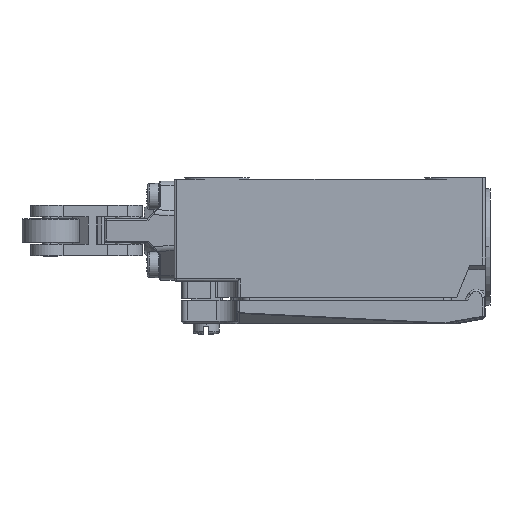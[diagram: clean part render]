
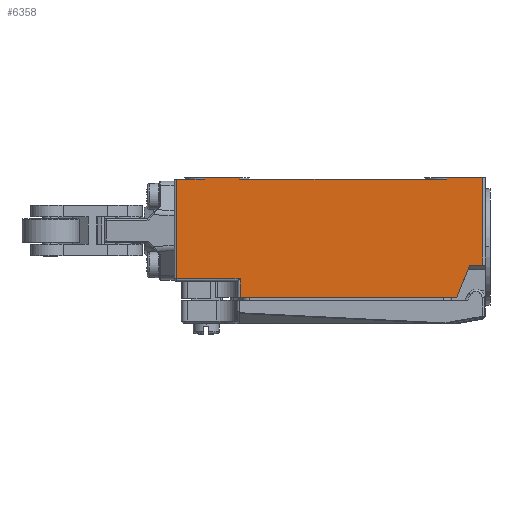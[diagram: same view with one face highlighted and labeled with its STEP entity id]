
A CAD part, left-side view. The second image highlights one B-rep face of the part: STEP entity #6358.
In plain terms, the highlighted planar face has unit normal (-1, 0, 0).
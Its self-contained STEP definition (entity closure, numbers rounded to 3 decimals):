
#1513=B_SPLINE_CURVE_WITH_KNOTS('',3,(#40742,#40743,#40744,#40745),
 .UNSPECIFIED.,.F.,.F.,(4,4),(0.,1.),.UNSPECIFIED.);
#1514=B_SPLINE_CURVE_WITH_KNOTS('',3,(#40862,#40863,#40864,#40865),
 .UNSPECIFIED.,.F.,.F.,(4,4),(0.,1.),.UNSPECIFIED.);
#1515=B_SPLINE_CURVE_WITH_KNOTS('',3,(#40866,#40867,#40868,#40869),
 .UNSPECIFIED.,.F.,.F.,(4,4),(0.,1.),.UNSPECIFIED.);
#1516=B_SPLINE_CURVE_WITH_KNOTS('',3,(#40871,#40872,#40873,#40874),
 .UNSPECIFIED.,.F.,.F.,(4,4),(0.,1.),.UNSPECIFIED.);
#1517=B_SPLINE_CURVE_WITH_KNOTS('',3,(#40876,#40877,#40878,#40879),
 .UNSPECIFIED.,.F.,.F.,(4,4),(0.,1.),.UNSPECIFIED.);
#1518=B_SPLINE_CURVE_WITH_KNOTS('',3,(#40887,#40888,#40889,#40890),
 .UNSPECIFIED.,.F.,.F.,(4,4),(0.,1.),.UNSPECIFIED.);
#1519=B_SPLINE_CURVE_WITH_KNOTS('',3,(#40891,#40892,#40893,#40894),
 .UNSPECIFIED.,.F.,.F.,(4,4),(0.,1.),.UNSPECIFIED.);
#1520=B_SPLINE_CURVE_WITH_KNOTS('',3,(#40895,#40896,#40897,#40898),
 .UNSPECIFIED.,.F.,.F.,(4,4),(0.,1.),.UNSPECIFIED.);
#2356=LINE('',#40726,#4433);
#2393=LINE('',#40845,#4470);
#2398=LINE('',#40859,#4475);
#2399=LINE('',#40881,#4476);
#2400=LINE('',#40883,#4477);
#2401=LINE('',#40885,#4478);
#4433=VECTOR('',#29361,1.);
#4470=VECTOR('',#29472,1.);
#4475=VECTOR('',#29483,1.);
#4476=VECTOR('',#29484,1.);
#4477=VECTOR('',#29485,1.);
#4478=VECTOR('',#29486,1.);
#6358=ADVANCED_FACE('',(#8371),#7584,.F.);
#7584=PLANE('',#25976);
#8371=FACE_OUTER_BOUND('',#9743,.T.);
#9743=EDGE_LOOP('',(#12795,#12796,#12797,#12798,#12799,#12800,#12801,#12802,
#12803,#12804,#12805,#12806,#12807,#12808));
#12795=ORIENTED_EDGE('',*,*,#21745,.F.);
#12796=ORIENTED_EDGE('',*,*,#21746,.F.);
#12797=ORIENTED_EDGE('',*,*,#21681,.F.);
#12798=ORIENTED_EDGE('',*,*,#21747,.T.);
#12799=ORIENTED_EDGE('',*,*,#21748,.T.);
#12800=ORIENTED_EDGE('',*,*,#21749,.T.);
#12801=ORIENTED_EDGE('',*,*,#21750,.T.);
#12802=ORIENTED_EDGE('',*,*,#21751,.F.);
#12803=ORIENTED_EDGE('',*,*,#21752,.F.);
#12804=ORIENTED_EDGE('',*,*,#21753,.T.);
#12805=ORIENTED_EDGE('',*,*,#21738,.F.);
#12806=ORIENTED_EDGE('',*,*,#21754,.T.);
#12807=ORIENTED_EDGE('',*,*,#21689,.F.);
#12808=ORIENTED_EDGE('',*,*,#21755,.T.);
#18976=VERTEX_POINT('',#40725);
#18977=VERTEX_POINT('',#40727);
#18984=VERTEX_POINT('',#40741);
#18985=VERTEX_POINT('',#40746);
#19016=VERTEX_POINT('',#40842);
#19017=VERTEX_POINT('',#40844);
#19024=VERTEX_POINT('',#40860);
#19025=VERTEX_POINT('',#40861);
#19026=VERTEX_POINT('',#40870);
#19027=VERTEX_POINT('',#40875);
#19028=VERTEX_POINT('',#40880);
#19029=VERTEX_POINT('',#40882);
#19030=VERTEX_POINT('',#40884);
#19031=VERTEX_POINT('',#40886);
#21681=EDGE_CURVE('',#18976,#18977,#2356,.T.);
#21689=EDGE_CURVE('',#18984,#18985,#1513,.T.);
#21738=EDGE_CURVE('',#19017,#19016,#2393,.T.);
#21745=EDGE_CURVE('',#19024,#19025,#2398,.T.);
#21746=EDGE_CURVE('',#18977,#19024,#1514,.T.);
#21747=EDGE_CURVE('',#18976,#19026,#1515,.T.);
#21748=EDGE_CURVE('',#19026,#19027,#1516,.T.);
#21749=EDGE_CURVE('',#19027,#19028,#1517,.T.);
#21750=EDGE_CURVE('',#19028,#19029,#2399,.T.);
#21751=EDGE_CURVE('',#19030,#19029,#2400,.T.);
#21752=EDGE_CURVE('',#19031,#19030,#2401,.T.);
#21753=EDGE_CURVE('',#19031,#19016,#1518,.T.);
#21754=EDGE_CURVE('',#19017,#18985,#1519,.T.);
#21755=EDGE_CURVE('',#18984,#19025,#1520,.T.);
#25976=AXIS2_PLACEMENT_3D('',#40899,#29487,#29488);
#29361=DIRECTION('',(0.,-1.,0.));
#29472=DIRECTION('',(0.,-1.,0.));
#29483=DIRECTION('',(0.,-1.,0.));
#29484=DIRECTION('',(0.,-1.,0.));
#29485=DIRECTION('',(0.,0.371,-0.928));
#29486=DIRECTION('',(0.,1.,0.));
#29487=DIRECTION('',(1.,0.,0.));
#29488=DIRECTION('',(0.,1.,0.));
#40725=CARTESIAN_POINT('',(160.488,12.728,24.587));
#40726=CARTESIAN_POINT('',(160.488,-50.973,24.587));
#40727=CARTESIAN_POINT('',(160.488,7.025,24.587));
#40741=CARTESIAN_POINT('',(160.488,-0.294,24.587));
#40742=CARTESIAN_POINT('',(160.488,-0.294,24.587));
#40743=CARTESIAN_POINT('',(160.488,-14.536,24.587));
#40744=CARTESIAN_POINT('',(160.488,-28.778,24.587));
#40745=CARTESIAN_POINT('',(160.488,-43.02,24.587));
#40746=CARTESIAN_POINT('',(160.488,-43.021,24.587));
#40842=CARTESIAN_POINT('',(160.488,-50.474,24.937));
#40844=CARTESIAN_POINT('',(160.488,-43.022,24.937));
#40845=CARTESIAN_POINT('',(160.488,-43.023,24.937));
#40859=CARTESIAN_POINT('',(160.488,7.028,24.937));
#40860=CARTESIAN_POINT('',(160.488,7.026,24.937));
#40861=CARTESIAN_POINT('',(160.488,-0.297,24.937));
#40862=CARTESIAN_POINT('',(160.488,7.025,24.587));
#40863=CARTESIAN_POINT('',(160.488,7.025,24.704));
#40864=CARTESIAN_POINT('',(160.488,7.026,24.82));
#40865=CARTESIAN_POINT('',(160.488,7.026,24.937));
#40866=CARTESIAN_POINT('',(160.488,12.728,24.587));
#40867=CARTESIAN_POINT('',(160.488,12.727,17.737));
#40868=CARTESIAN_POINT('',(160.488,12.727,10.887));
#40869=CARTESIAN_POINT('',(160.488,12.727,4.037));
#40870=CARTESIAN_POINT('',(160.488,12.727,4.037));
#40871=CARTESIAN_POINT('',(160.488,12.727,4.037));
#40872=CARTESIAN_POINT('',(160.488,8.36,4.037));
#40873=CARTESIAN_POINT('',(160.488,3.993,4.037));
#40874=CARTESIAN_POINT('',(160.488,-0.374,4.037));
#40875=CARTESIAN_POINT('',(160.488,-0.374,4.037));
#40876=CARTESIAN_POINT('',(160.488,-0.374,4.037));
#40877=CARTESIAN_POINT('',(160.488,-0.374,2.754));
#40878=CARTESIAN_POINT('',(160.488,-0.374,1.47));
#40879=CARTESIAN_POINT('',(160.488,-0.374,0.187));
#40880=CARTESIAN_POINT('',(160.488,-0.374,0.187));
#40881=CARTESIAN_POINT('',(160.488,7.028,0.187));
#40882=CARTESIAN_POINT('',(160.488,-45.093,0.187));
#40883=CARTESIAN_POINT('',(160.488,-46.439,3.55));
#40884=CARTESIAN_POINT('',(160.488,-47.773,6.887));
#40885=CARTESIAN_POINT('',(160.488,7.028,6.887));
#40886=CARTESIAN_POINT('',(160.488,-50.474,6.887));
#40887=CARTESIAN_POINT('',(160.488,-50.474,6.887));
#40888=CARTESIAN_POINT('',(160.488,-50.474,12.904));
#40889=CARTESIAN_POINT('',(160.488,-50.474,18.92));
#40890=CARTESIAN_POINT('',(160.488,-50.474,24.937));
#40891=CARTESIAN_POINT('',(160.488,-43.022,24.937));
#40892=CARTESIAN_POINT('',(160.488,-43.022,24.82));
#40893=CARTESIAN_POINT('',(160.488,-43.022,24.704));
#40894=CARTESIAN_POINT('',(160.488,-43.022,24.587));
#40895=CARTESIAN_POINT('',(160.488,-0.294,24.587));
#40896=CARTESIAN_POINT('',(160.488,-0.294,24.704));
#40897=CARTESIAN_POINT('',(160.488,-0.295,24.82));
#40898=CARTESIAN_POINT('',(160.488,-0.295,24.937));
#40899=CARTESIAN_POINT('',(160.488,7.028,24.937));
